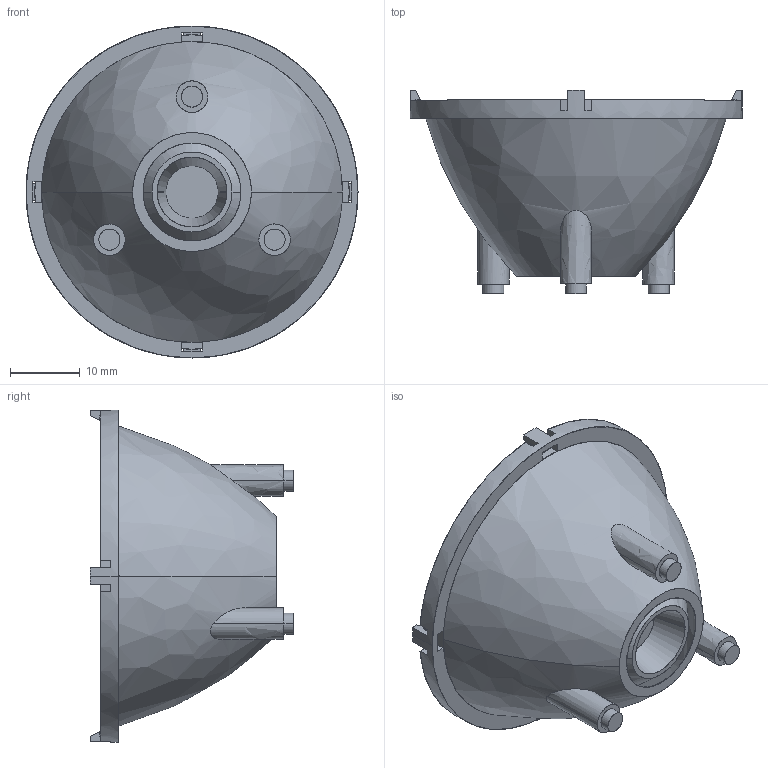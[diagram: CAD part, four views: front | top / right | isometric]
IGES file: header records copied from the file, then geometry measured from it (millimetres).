
Start section: SolidWorks IGES file using analytic representation for surfaces
Global section: file name: C:\P-Gold\Projects\Lenses\LuxPar_Lenses\05-LZC\2400-0084_Lens(Wide-45deg)\Application\LLXX-XT08-P3_RevA1.IGS; native system: SolidWorks 2011; preprocessor: SolidWorks 2011; author: dadebiyi; date: 120906.182755; units: millimetre
Bounding box: 47.5 x 29.1 x 47.5 mm (x, y, z)
Surface area: 11844 mm2 (no closed solid volume)
Topology: 0 solids, 0 shells, 103 faces, 1744 edges, 1744 vertices
Faces by surface type: bspline 74, revolution 29
